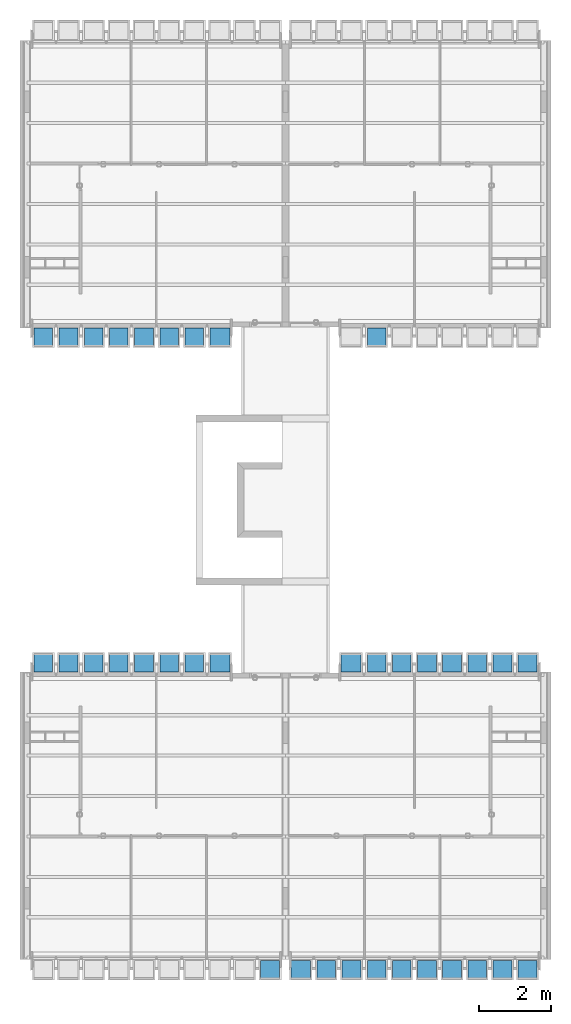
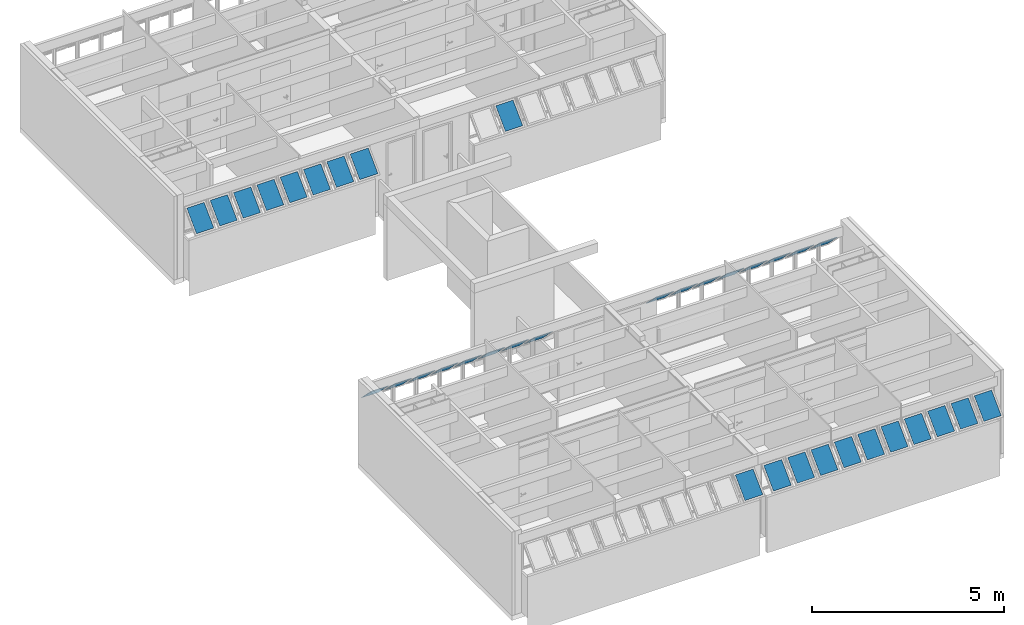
# One storey, part 36 of 37: 36 building element parts, 42 elements without a shape of their own.
"""IFC2X3 building model written with IfcOpenShell, lengths in millimetres."""

from ifc_helpers import new_model, entity, si_unit, converted_unit, derived_unit, money_unit, direction, frame, origin_with_axes, place, context, subcontext, project, spatial, faceted_brep, source, transform, mapped, material, type_object, element, aggregate, save


model = new_model("IFC2X3")

# Units and contexts
model_context = context("Model", 3, precision=0.01, world=origin_with_axes(), true_north=direction((0.0, 1.0)))
body_context = subcontext(model_context, "Body", "Model", "MODEL_VIEW")
ifc_project = project(units=[si_unit("LENGTHUNIT", "METRE", prefix="MILLI"), si_unit("AREAUNIT", "SQUARE_METRE"), si_unit("VOLUMEUNIT", "CUBIC_METRE"), converted_unit("PLANEANGLEUNIT", "DEGREE", entity("IfcPlaneAngleMeasure", 0.0174532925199), si_unit("PLANEANGLEUNIT", "RADIAN"), dimensions=[0, 0, 0, 0, 0, 0, 0]), money_unit("USD"), converted_unit("TIMEUNIT", "Year", entity("IfcTimeMeasure", 31556926.0), si_unit("TIMEUNIT", "SECOND"), dimensions=[0, 0, 1, 0, 0, 0, 0]), si_unit("MASSUNIT", "GRAM", prefix="KILO"), si_unit("THERMODYNAMICTEMPERATUREUNIT", "DEGREE_CELSIUS"), si_unit("LUMINOUSINTENSITYUNIT", "LUMEN"), si_unit("ENERGYUNIT", "JOULE", prefix="MEGA"), derived_unit("THERMALCONDUCTANCEUNIT", [(si_unit("POWERUNIT", "WATT"), 1), (si_unit("LENGTHUNIT", "METRE"), -1), (si_unit("THERMODYNAMICTEMPERATUREUNIT", "KELVIN"), -1)]), derived_unit("SPECIFICHEATCAPACITYUNIT", [(si_unit("ENERGYUNIT", "JOULE"), 1), (si_unit("MASSUNIT", "GRAM", prefix="KILO"), -1), (si_unit("THERMODYNAMICTEMPERATUREUNIT", "KELVIN"), -1)]), derived_unit("MASSDENSITYUNIT", [(si_unit("MASSUNIT", "GRAM", prefix="KILO"), 1), (si_unit("VOLUMEUNIT", "CUBIC_METRE"), -1)])], contexts=[model_context])

# Site, building, storey
site_placement = place(None, origin_with_axes())
site = spatial("IfcSite", under=ifc_project, at=site_placement, Name="Local", CompositionType="ELEMENT")
building_placement = place(site_placement, origin_with_axes())
building = spatial("IfcBuilding", under=site, at=building_placement, Name="Construção", CompositionType="ELEMENT")
storey_placement = place(building_placement, frame((0.0, 0.0, 5300.0), z_axis=(0.0, 0.0, 1.0), x_axis=(1.0, 0.0, 0.0)))
storey = spatial("IfcBuildingStorey", under=building, at=storey_placement, Name="Terceiro Pavimento", CompositionType="ELEMENT", Elevation=5300.0)

# Window, plates, building element parts
window_style = type_object("IfcWindowStyle", Name="Tipo de Parede Cortina", ConstructionType="NOTDEFINED", OperationType="NOTDEFINED", ParameterTakesPrecedence=False, Sizeable=False)
window_1_placement = place(storey_placement, frame((12020.0, 8250.0, 1355.00007107), z_axis=(0.0, 0.0, 1.0), x_axis=(1.0, 0.0, 0.0)))
window_1 = element("IfcWindow", 1, at=window_1_placement, inside=storey, type_object=window_style, Name="APTO10-JANELA-000")
plate_type_1 = type_object("IfcPlateType", Name="Painel Principal 690 x 845 x 20", PredefinedType="CURTAIN_PANEL")
plate_1_placement = place(window_1_placement, frame((0.0, 0.0, 422.499964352), z_axis=(0.0, 0.0, 1.0), x_axis=(1.0, 0.0, 0.0)))
plate_1 = element("IfcPlate", 2, at=plate_1_placement, type_object=plate_type_1, Name="APTO10-Painel-Prin-013")
ifc_material = material(Name="Vidro")
shared_shape_1 = source(origin_with_axes(), body_context, "Body", "Brep", [
    faceted_brep([(90.0000036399, 272.749572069, 537.551834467), (609.999997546, 272.749572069, 537.551834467), (609.999997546, 284.063280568, 548.865542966), (90.0000036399, 284.063280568, 548.865542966), (90.0000036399, 778.330843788, 31.9705627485), (609.999997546, 778.330843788, 31.9705627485), (609.999997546, 789.644552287, 43.2842712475), (90.0000036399, 789.644552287, 43.2842712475)], [[[0, 1, 2, 3]], [[0, 4, 5, 1]], [[1, 5, 6, 2]], [[3, 2, 6, 7]], [[4, 0, 3, 7]], [[5, 4, 7, 6]]]),
])
building_element_part_1_placement = place(plate_1_placement, origin_with_axes())
building_element_part_1 = element("IfcBuildingElementPart", 3, at=building_element_part_1_placement, material=ifc_material, Name="Vidro", context=body_context, shape_type="MappedRepresentation", body=[
    mapped(shared_shape_1, transform((350.0, 0.0, -422.499964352), x_axis=(-1.0, 0.0, 0.0), y_axis=(0.0, 0.0, 1.0), z_axis=(0.0, 1.0, 0.0))),
])
aggregate(plate_1, [building_element_part_1])
plate_2_placement = place(window_1_placement, frame((-2100.0, 0.0, 422.499964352), z_axis=(0.0, 0.0, 1.0), x_axis=(1.0, 0.0, 0.0)))
plate_2 = element("IfcPlate", 4, at=plate_2_placement, type_object=plate_type_1, Name="APTO10-Painel-Prin-029")
building_element_part_2_placement = place(plate_2_placement, origin_with_axes())
building_element_part_2 = element("IfcBuildingElementPart", 5, at=building_element_part_2_placement, material=ifc_material, Name="Vidro", context=body_context, shape_type="MappedRepresentation", body=[
    mapped(shared_shape_1, transform((350.0, 0.0, -422.499964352), x_axis=(-1.0, 0.0, 0.0), y_axis=(0.0, 0.0, 1.0), z_axis=(0.0, 1.0, 0.0))),
])
aggregate(plate_2, [building_element_part_2])

window_2_placement = place(storey_placement, frame((2750.0, 17910.0, 1355.00007107), z_axis=(0.0, 0.0, 1.0), x_axis=(1.0, 0.0, 0.0)))
window_2 = element("IfcWindow", 6, at=window_2_placement, inside=storey, type_object=window_style, Name="APTO11-JANELA-000")
plate_3_placement = place(window_2_placement, frame((0.0, 0.0, 422.499964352), z_axis=(0.0, 0.0, 1.0), x_axis=(-1.0, 0.0, 0.0)))
plate_3 = element("IfcPlate", 7, at=plate_3_placement, type_object=plate_type_1, Name="APTO11-Painel-Prin-013")
building_element_part_3_placement = place(plate_3_placement, origin_with_axes())
building_element_part_3 = element("IfcBuildingElementPart", 8, at=building_element_part_3_placement, material=ifc_material, Name="Vidro", context=body_context, shape_type="MappedRepresentation", body=[
    mapped(shared_shape_1, transform((350.0, 0.0, -422.499964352), x_axis=(-1.0, 0.0, 0.0), y_axis=(0.0, 0.0, 1.0), z_axis=(0.0, 1.0, 0.0))),
])
aggregate(plate_3, [building_element_part_3])
plate_4_placement = place(window_2_placement, frame((2100.0, 0.0, 422.499964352), z_axis=(0.0, 0.0, 1.0), x_axis=(-1.0, 0.0, 0.0)))
plate_4 = element("IfcPlate", 9, at=plate_4_placement, type_object=plate_type_1, Name="APTO11-Painel-Prin-029")
building_element_part_4_placement = place(plate_4_placement, origin_with_axes())
building_element_part_4 = element("IfcBuildingElementPart", 10, at=building_element_part_4_placement, material=ifc_material, Name="Vidro", context=body_context, shape_type="MappedRepresentation", body=[
    mapped(shared_shape_1, transform((350.0, 0.0, -422.499964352), x_axis=(-1.0, 0.0, 0.0), y_axis=(0.0, 0.0, 1.0), z_axis=(0.0, 1.0, 0.0))),
])
aggregate(plate_4, [building_element_part_4])

# Window, plate, building element part
window_3_placement = place(storey_placement, frame((6250.0, 315.020977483, 1355.02054151), z_axis=(0.0, 0.0, 1.0), x_axis=(1.0, 0.0, 0.0)))
window_3 = element("IfcWindow", 11, at=window_3_placement, inside=storey, type_object=window_style, Name="APTO9-JANELA-001")
plate_type_2 = type_object("IfcPlateType", Name="Painel Principal 685 x 845 x 20", PredefinedType="CURTAIN_PANEL")
plate_5_placement = place(window_3_placement, frame((695.000037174, 0.0, 422.499953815), z_axis=(0.0, 0.0, 1.0), x_axis=(-1.0, 0.0, 0.0)))
plate_5 = element("IfcPlate", 12, at=plate_5_placement, type_object=plate_type_2, Name="APTO9-Painel-Prin-031")
aggregate(window_3, [plate_5])
shared_shape_2 = source(origin_with_axes(), body_context, "Body", "Brep", [
    faceted_brep([(90.0000046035, 272.749581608, 537.551857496), (625.000079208, 272.749581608, 537.551857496), (625.000079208, 284.063290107, 548.865565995), (90.0000046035, 284.063290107, 548.865565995), (90.0000046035, 778.330876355, 31.9705627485), (625.000079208, 778.330876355, 31.9705627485), (625.000079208, 789.644584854, 43.2842712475), (90.0000046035, 789.644584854, 43.2842712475)], [[[0, 1, 2, 3]], [[0, 4, 5, 1]], [[1, 5, 6, 2]], [[3, 2, 6, 7]], [[4, 0, 3, 7]], [[5, 4, 7, 6]]]),
])
building_element_part_5_placement = place(plate_5_placement, origin_with_axes())
building_element_part_5 = element("IfcBuildingElementPart", 13, at=building_element_part_5_placement, material=ifc_material, Name="Vidro", context=body_context, shape_type="MappedRepresentation", body=[
    mapped(shared_shape_2, transform((345.000037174, 0.0, -422.499953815), x_axis=(-1.0, 0.0, 0.0), y_axis=(0.0, 0.0, 1.0), z_axis=(0.0, 1.0, 0.0))),
])
aggregate(plate_5, [building_element_part_5])

# Plate, building element part
plate_6_placement = place(window_1_placement, frame((2100.0, 0.0, 422.499998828), z_axis=(0.0, 0.0, 1.0), x_axis=(1.0, 0.0, 0.0)))
plate_6 = element("IfcPlate", 14, at=plate_6_placement, type_object=plate_type_1, Name="APTO10-Painel-Prin-013")
shared_shape_3 = source(origin_with_axes(), body_context, "Body", "Brep", [
    faceted_brep([(90.0000036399, 272.749572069, 537.551834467), (609.999997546, 272.749572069, 537.551834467), (609.999997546, 284.063280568, 548.865542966), (90.0000036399, 284.063280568, 548.865542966), (90.0000036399, 778.330843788, 31.9705627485), (609.999997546, 778.330843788, 31.9705627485), (609.999997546, 789.644552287, 43.2842712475), (90.0000036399, 789.644552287, 43.2842712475)], [[[0, 1, 2, 3]], [[0, 4, 5, 1]], [[1, 5, 6, 2]], [[3, 2, 6, 7]], [[4, 0, 3, 7]], [[5, 4, 7, 6]]]),
])
building_element_part_6_placement = place(plate_6_placement, origin_with_axes())
building_element_part_6 = element("IfcBuildingElementPart", 15, at=building_element_part_6_placement, material=ifc_material, Name="Vidro", context=body_context, shape_type="MappedRepresentation", body=[
    mapped(shared_shape_3, transform((350.0, 0.0, -422.499998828), x_axis=(-1.0, 0.0, 0.0), y_axis=(0.0, 0.0, 1.0), z_axis=(0.0, 1.0, 0.0))),
])
aggregate(plate_6, [building_element_part_6])

plate_7_placement = place(window_1_placement, frame((1400.0, 0.0, 422.499964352), z_axis=(0.0, 0.0, 1.0), x_axis=(1.0, 0.0, 0.0)))
plate_7 = element("IfcPlate", 16, at=plate_7_placement, type_object=plate_type_1, Name="APTO10-Painel-Prin-013")
building_element_part_7_placement = place(plate_7_placement, origin_with_axes())
building_element_part_7 = element("IfcBuildingElementPart", 17, at=building_element_part_7_placement, material=ifc_material, Name="Vidro", context=body_context, shape_type="MappedRepresentation", body=[
    mapped(shared_shape_3, transform((350.0, 0.0, -422.499964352), x_axis=(-1.0, 0.0, 0.0), y_axis=(0.0, 0.0, 1.0), z_axis=(0.0, 1.0, 0.0))),
])
aggregate(plate_7, [building_element_part_7])

plate_8_placement = place(window_1_placement, frame((-1400.0, 0.0, 422.499964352), z_axis=(0.0, 0.0, 1.0), x_axis=(1.0, 0.0, 0.0)))
plate_8 = element("IfcPlate", 18, at=plate_8_placement, type_object=plate_type_1, Name="APTO10-Painel-Prin-025")
building_element_part_8_placement = place(plate_8_placement, origin_with_axes())
building_element_part_8 = element("IfcBuildingElementPart", 19, at=building_element_part_8_placement, material=ifc_material, Name="Vidro", context=body_context, shape_type="MappedRepresentation", body=[
    mapped(shared_shape_3, transform((350.0, 0.0, -422.499964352), x_axis=(-1.0, 0.0, 0.0), y_axis=(0.0, 0.0, 1.0), z_axis=(0.0, 1.0, 0.0))),
])
aggregate(plate_8, [building_element_part_8])

plate_9_placement = place(window_2_placement, frame((-2100.0, 0.0, 422.499998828), z_axis=(0.0, 0.0, 1.0), x_axis=(-1.0, 0.0, 0.0)))
plate_9 = element("IfcPlate", 20, at=plate_9_placement, type_object=plate_type_1, Name="APTO11-Painel-Prin-013")
building_element_part_9_placement = place(plate_9_placement, origin_with_axes())
building_element_part_9 = element("IfcBuildingElementPart", 21, at=building_element_part_9_placement, material=ifc_material, Name="Vidro", context=body_context, shape_type="MappedRepresentation", body=[
    mapped(shared_shape_3, transform((350.0, 0.0, -422.499998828), x_axis=(-1.0, 0.0, 0.0), y_axis=(0.0, 0.0, 1.0), z_axis=(0.0, 1.0, 0.0))),
])
aggregate(plate_9, [building_element_part_9])

plate_10_placement = place(window_2_placement, frame((-1400.0, 0.0, 422.499964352), z_axis=(0.0, 0.0, 1.0), x_axis=(-1.0, 0.0, 0.0)))
plate_10 = element("IfcPlate", 22, at=plate_10_placement, type_object=plate_type_1, Name="APTO11-Painel-Prin-013")
building_element_part_10_placement = place(plate_10_placement, origin_with_axes())
building_element_part_10 = element("IfcBuildingElementPart", 23, at=building_element_part_10_placement, material=ifc_material, Name="Vidro", context=body_context, shape_type="MappedRepresentation", body=[
    mapped(shared_shape_3, transform((350.0, 0.0, -422.499964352), x_axis=(-1.0, 0.0, 0.0), y_axis=(0.0, 0.0, 1.0), z_axis=(0.0, 1.0, 0.0))),
])
aggregate(plate_10, [building_element_part_10])

plate_11_placement = place(window_2_placement, frame((1400.0, 0.0, 422.499964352), z_axis=(0.0, 0.0, 1.0), x_axis=(-1.0, 0.0, 0.0)))
plate_11 = element("IfcPlate", 24, at=plate_11_placement, type_object=plate_type_1, Name="APTO11-Painel-Prin-025")
building_element_part_11_placement = place(plate_11_placement, origin_with_axes())
building_element_part_11 = element("IfcBuildingElementPart", 25, at=building_element_part_11_placement, material=ifc_material, Name="Vidro", context=body_context, shape_type="MappedRepresentation", body=[
    mapped(shared_shape_3, transform((350.0, 0.0, -422.499964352), x_axis=(-1.0, 0.0, 0.0), y_axis=(0.0, 0.0, 1.0), z_axis=(0.0, 1.0, 0.0))),
])
aggregate(plate_11, [building_element_part_11])

plate_12_placement = place(window_1_placement, frame((-700.0, 0.0, 422.499964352), z_axis=(0.0, 0.0, 1.0), x_axis=(1.0, 0.0, 0.0)))
plate_12 = element("IfcPlate", 26, at=plate_12_placement, type_object=plate_type_1, Name="APTO10-Painel-Prin-013")
shared_shape_4 = source(origin_with_axes(), body_context, "Body", "Brep", [
    faceted_brep([(90.0000036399, 272.749572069, 537.551834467), (609.999997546, 272.749572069, 537.551834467), (609.999997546, 284.063280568, 548.865542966), (90.0000036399, 284.063280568, 548.865542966), (90.0000036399, 778.330843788, 31.9705627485), (609.999997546, 778.330843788, 31.9705627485), (609.999997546, 789.644552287, 43.2842712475), (90.0000036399, 789.644552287, 43.2842712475)], [[[0, 1, 2, 3]], [[0, 4, 5, 1]], [[1, 5, 6, 2]], [[3, 2, 6, 7]], [[4, 0, 3, 7]], [[5, 4, 7, 6]]]),
])
building_element_part_12_placement = place(plate_12_placement, origin_with_axes())
building_element_part_12 = element("IfcBuildingElementPart", 27, at=building_element_part_12_placement, material=ifc_material, Name="Vidro", context=body_context, shape_type="MappedRepresentation", body=[
    mapped(shared_shape_4, transform((350.0, 0.0, -422.499964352), x_axis=(-1.0, 0.0, 0.0), y_axis=(0.0, 0.0, 1.0), z_axis=(0.0, 1.0, 0.0))),
])
aggregate(plate_12, [building_element_part_12])

plate_13_placement = place(window_1_placement, frame((700.0, 0.0, 422.499964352), z_axis=(0.0, 0.0, 1.0), x_axis=(1.0, 0.0, 0.0)))
plate_13 = element("IfcPlate", 28, at=plate_13_placement, type_object=plate_type_1, Name="APTO10-Painel-Prin-013")
building_element_part_13_placement = place(plate_13_placement, origin_with_axes())
building_element_part_13 = element("IfcBuildingElementPart", 29, at=building_element_part_13_placement, material=ifc_material, Name="Vidro", context=body_context, shape_type="MappedRepresentation", body=[
    mapped(shared_shape_4, transform((350.0, 0.0, -422.499964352), x_axis=(-1.0, 0.0, 0.0), y_axis=(0.0, 0.0, 1.0), z_axis=(0.0, 1.0, 0.0))),
])
aggregate(plate_13, [building_element_part_13])

plate_14_placement = place(window_2_placement, frame((700.0, 0.0, 422.499964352), z_axis=(0.0, 0.0, 1.0), x_axis=(-1.0, 0.0, 0.0)))
plate_14 = element("IfcPlate", 30, at=plate_14_placement, type_object=plate_type_1, Name="APTO11-Painel-Prin-013")
building_element_part_14_placement = place(plate_14_placement, origin_with_axes())
building_element_part_14 = element("IfcBuildingElementPart", 31, at=building_element_part_14_placement, material=ifc_material, Name="Vidro", context=body_context, shape_type="MappedRepresentation", body=[
    mapped(shared_shape_4, transform((350.0, 0.0, -422.499964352), x_axis=(-1.0, 0.0, 0.0), y_axis=(0.0, 0.0, 1.0), z_axis=(0.0, 1.0, 0.0))),
])
aggregate(plate_14, [building_element_part_14])

plate_15_placement = place(window_2_placement, frame((-700.0, 0.0, 422.499964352), z_axis=(0.0, 0.0, 1.0), x_axis=(-1.0, 0.0, 0.0)))
plate_15 = element("IfcPlate", 32, at=plate_15_placement, type_object=plate_type_1, Name="APTO11-Painel-Prin-013")
building_element_part_15_placement = place(plate_15_placement, origin_with_axes())
building_element_part_15 = element("IfcBuildingElementPart", 33, at=building_element_part_15_placement, material=ifc_material, Name="Vidro", context=body_context, shape_type="MappedRepresentation", body=[
    mapped(shared_shape_4, transform((350.0, 0.0, -422.499964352), x_axis=(-1.0, 0.0, 0.0), y_axis=(0.0, 0.0, 1.0), z_axis=(0.0, 1.0, 0.0))),
])
aggregate(plate_15, [building_element_part_15])

# Window, plates, building element parts
window_4_placement = place(storey_placement, frame((2750.0, 8250.0, 1355.00007107), z_axis=(0.0, 0.0, 1.0), x_axis=(1.0, 0.0, 0.0)))
window_4 = element("IfcWindow", 34, at=window_4_placement, inside=storey, type_object=window_style, Name="APTO9-JANELA-000")
plate_16_placement = place(window_4_placement, frame((0.0, 0.0, 422.499964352), z_axis=(0.0, 0.0, 1.0), x_axis=(-1.0, 0.0, 0.0)))
plate_16 = element("IfcPlate", 35, at=plate_16_placement, type_object=plate_type_1, Name="APTO9-Painel-Prin-013")
shared_shape_5 = source(origin_with_axes(), body_context, "Body", "Brep", [
    faceted_brep([(-90.0000036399, 272.749572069, 537.551834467), (-90.0000036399, 284.063280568, 548.865542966), (-609.999997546, 284.063280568, 548.865542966), (-609.999997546, 272.749572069, 537.551834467), (-90.0000036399, 778.330843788, 31.9705627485), (-90.0000036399, 789.644552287, 43.2842712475), (-609.999997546, 789.644552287, 43.2842712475), (-609.999997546, 778.330843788, 31.9705627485)], [[[0, 1, 2, 3]], [[4, 5, 1, 0]], [[1, 5, 6, 2]], [[3, 2, 6, 7]], [[0, 3, 7, 4]], [[7, 6, 5, 4]]]),
])
building_element_part_16_placement = place(plate_16_placement, origin_with_axes())
building_element_part_16 = element("IfcBuildingElementPart", 36, at=building_element_part_16_placement, material=ifc_material, Name="Vidro", context=body_context, shape_type="MappedRepresentation", body=[
    mapped(shared_shape_5, transform((350.0, 0.0, -422.499964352), x_axis=(1.0, 0.0, 0.0), y_axis=(0.0, 0.0, 1.0), z_axis=(0.0, -1.0, 0.0))),
])
aggregate(plate_16, [building_element_part_16])
plate_17_placement = place(window_4_placement, frame((2100.0, 0.0, 422.499964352), z_axis=(0.0, 0.0, 1.0), x_axis=(-1.0, 0.0, 0.0)))
plate_17 = element("IfcPlate", 37, at=plate_17_placement, type_object=plate_type_1, Name="APTO9-Painel-Prin-029")
building_element_part_17_placement = place(plate_17_placement, origin_with_axes())
building_element_part_17 = element("IfcBuildingElementPart", 38, at=building_element_part_17_placement, material=ifc_material, Name="Vidro", context=body_context, shape_type="MappedRepresentation", body=[
    mapped(shared_shape_5, transform((350.0, 0.0, -422.499964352), x_axis=(1.0, 0.0, 0.0), y_axis=(0.0, 0.0, 1.0), z_axis=(0.0, -1.0, 0.0))),
])
aggregate(plate_17, [building_element_part_17])

window_5_placement = place(storey_placement, frame((8520.0, 315.020977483, 1355.02054151), z_axis=(0.0, 0.0, 1.0), x_axis=(1.0, 0.0, 0.0)))
window_5 = element("IfcWindow", 39, at=window_5_placement, inside=storey, type_object=window_style, Name="APTO10-JANELA-001")
plate_18_placement = place(window_5_placement, frame((0.0, 0.0, 422.499945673), z_axis=(0.0, 0.0, 1.0), x_axis=(1.0, 0.0, 0.0)))
plate_18 = element("IfcPlate", 40, at=plate_18_placement, type_object=plate_type_1, Name="APTO10-Painel-Prin-030")
building_element_part_18_placement = place(plate_18_placement, origin_with_axes())
building_element_part_18 = element("IfcBuildingElementPart", 41, at=building_element_part_18_placement, material=ifc_material, Name="Vidro", context=body_context, shape_type="MappedRepresentation", body=[
    mapped(shared_shape_5, transform((350.0, 0.0, -422.499945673), x_axis=(1.0, 0.0, 0.0), y_axis=(0.0, 0.0, 1.0), z_axis=(0.0, -1.0, 0.0))),
])
aggregate(plate_18, [building_element_part_18])
plate_19_placement = place(window_5_placement, frame((700.0, 0.0, 422.499945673), z_axis=(0.0, 0.0, 1.0), x_axis=(1.0, 0.0, 0.0)))
plate_19 = element("IfcPlate", 42, at=plate_19_placement, type_object=plate_type_1, Name="APTO10-Painel-Prin-020")
building_element_part_19_placement = place(plate_19_placement, origin_with_axes())
building_element_part_19 = element("IfcBuildingElementPart", 43, at=building_element_part_19_placement, material=ifc_material, Name="Vidro", context=body_context, shape_type="MappedRepresentation", body=[
    mapped(shared_shape_5, transform((350.0, 0.0, -422.499945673), x_axis=(1.0, 0.0, 0.0), y_axis=(0.0, 0.0, 1.0), z_axis=(0.0, -1.0, 0.0))),
])
aggregate(plate_19, [building_element_part_19])
plate_20_placement = place(window_5_placement, frame((1400.0, 0.0, 422.499945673), z_axis=(0.0, 0.0, 1.0), x_axis=(1.0, 0.0, 0.0)))
plate_20 = element("IfcPlate", 44, at=plate_20_placement, type_object=plate_type_1, Name="APTO10-Painel-Prin-029")
building_element_part_20_placement = place(plate_20_placement, origin_with_axes())
building_element_part_20 = element("IfcBuildingElementPart", 45, at=building_element_part_20_placement, material=ifc_material, Name="Vidro", context=body_context, shape_type="MappedRepresentation", body=[
    mapped(shared_shape_5, transform((350.0, 0.0, -422.499945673), x_axis=(1.0, 0.0, 0.0), y_axis=(0.0, 0.0, 1.0), z_axis=(0.0, -1.0, 0.0))),
])
aggregate(plate_20, [building_element_part_20])
plate_21_placement = place(window_5_placement, frame((3500.0, 0.0, 422.499945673), z_axis=(0.0, 0.0, 1.0), x_axis=(1.0, 0.0, 0.0)))
plate_21 = element("IfcPlate", 46, at=plate_21_placement, type_object=plate_type_1, Name="APTO10-Painel-Prin-013")
building_element_part_21_placement = place(plate_21_placement, origin_with_axes())
building_element_part_21 = element("IfcBuildingElementPart", 47, at=building_element_part_21_placement, material=ifc_material, Name="Vidro", context=body_context, shape_type="MappedRepresentation", body=[
    mapped(shared_shape_5, transform((350.0, 0.0, -422.499945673), x_axis=(1.0, 0.0, 0.0), y_axis=(0.0, 0.0, 1.0), z_axis=(0.0, -1.0, 0.0))),
])
aggregate(plate_21, [building_element_part_21])

# Window, plate, building element part
window_6_placement = place(storey_placement, frame((12020.0, 17910.0, 1355.00007107), z_axis=(0.0, 0.0, 1.0), x_axis=(1.0, 0.0, 0.0)))
window_6 = element("IfcWindow", 48, at=window_6_placement, inside=storey, type_object=window_style, Name="APTO12-JANELA-000")
plate_22_placement = place(window_6_placement, frame((-2100.0, 0.0, 422.499964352), z_axis=(0.0, 0.0, 1.0), x_axis=(1.0, 0.0, 0.0)))
plate_22 = element("IfcPlate", 49, at=plate_22_placement, type_object=plate_type_1, Name="APTO12-Painel-Prin-029")
aggregate(window_6, [plate_22])
building_element_part_22_placement = place(plate_22_placement, origin_with_axes())
building_element_part_22 = element("IfcBuildingElementPart", 50, at=building_element_part_22_placement, material=ifc_material, Name="Vidro", context=body_context, shape_type="MappedRepresentation", body=[
    mapped(shared_shape_5, transform((350.0, 0.0, -422.499964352), x_axis=(1.0, 0.0, 0.0), y_axis=(0.0, 0.0, 1.0), z_axis=(0.0, -1.0, 0.0))),
])
aggregate(plate_22, [building_element_part_22])

# Plate, building element part
plate_23_placement = place(window_4_placement, frame((-2100.0, 0.0, 422.499998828), z_axis=(0.0, 0.0, 1.0), x_axis=(-1.0, 0.0, 0.0)))
plate_23 = element("IfcPlate", 51, at=plate_23_placement, type_object=plate_type_1, Name="APTO9-Painel-Prin-013")
shared_shape_6 = source(origin_with_axes(), body_context, "Body", "Brep", [
    faceted_brep([(-90.0000036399, 272.749572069, 537.551834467), (-90.0000036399, 284.063280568, 548.865542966), (-609.999997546, 284.063280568, 548.865542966), (-609.999997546, 272.749572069, 537.551834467), (-90.0000036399, 778.330843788, 31.9705627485), (-90.0000036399, 789.644552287, 43.2842712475), (-609.999997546, 789.644552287, 43.2842712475), (-609.999997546, 778.330843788, 31.9705627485)], [[[0, 1, 2, 3]], [[4, 5, 1, 0]], [[1, 5, 6, 2]], [[3, 2, 6, 7]], [[0, 3, 7, 4]], [[7, 6, 5, 4]]]),
])
building_element_part_23_placement = place(plate_23_placement, origin_with_axes())
building_element_part_23 = element("IfcBuildingElementPart", 52, at=building_element_part_23_placement, material=ifc_material, Name="Vidro", context=body_context, shape_type="MappedRepresentation", body=[
    mapped(shared_shape_6, transform((350.0, 0.0, -422.499998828), x_axis=(1.0, 0.0, 0.0), y_axis=(0.0, 0.0, 1.0), z_axis=(0.0, -1.0, 0.0))),
])
aggregate(plate_23, [building_element_part_23])

plate_24_placement = place(window_4_placement, frame((-1400.0, 0.0, 422.499964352), z_axis=(0.0, 0.0, 1.0), x_axis=(-1.0, 0.0, 0.0)))
plate_24 = element("IfcPlate", 53, at=plate_24_placement, type_object=plate_type_1, Name="APTO9-Painel-Prin-013")
building_element_part_24_placement = place(plate_24_placement, origin_with_axes())
building_element_part_24 = element("IfcBuildingElementPart", 54, at=building_element_part_24_placement, material=ifc_material, Name="Vidro", context=body_context, shape_type="MappedRepresentation", body=[
    mapped(shared_shape_6, transform((350.0, 0.0, -422.499964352), x_axis=(1.0, 0.0, 0.0), y_axis=(0.0, 0.0, 1.0), z_axis=(0.0, -1.0, 0.0))),
])
aggregate(plate_24, [building_element_part_24])

plate_25_placement = place(window_4_placement, frame((1400.0, 0.0, 422.499964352), z_axis=(0.0, 0.0, 1.0), x_axis=(-1.0, 0.0, 0.0)))
plate_25 = element("IfcPlate", 55, at=plate_25_placement, type_object=plate_type_1, Name="APTO9-Painel-Prin-025")
building_element_part_25_placement = place(plate_25_placement, origin_with_axes())
building_element_part_25 = element("IfcBuildingElementPart", 56, at=building_element_part_25_placement, material=ifc_material, Name="Vidro", context=body_context, shape_type="MappedRepresentation", body=[
    mapped(shared_shape_6, transform((350.0, 0.0, -422.499964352), x_axis=(1.0, 0.0, 0.0), y_axis=(0.0, 0.0, 1.0), z_axis=(0.0, -1.0, 0.0))),
])
aggregate(plate_25, [building_element_part_25])

plate_26_placement = place(window_5_placement, frame((5600.0, 0.0, 422.499945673), z_axis=(0.0, 0.0, 1.0), x_axis=(1.0, 0.0, 0.0)))
plate_26 = element("IfcPlate", 57, at=plate_26_placement, type_object=plate_type_1, Name="APTO10-Painel-Prin-013")
building_element_part_26_placement = place(plate_26_placement, origin_with_axes())
building_element_part_26 = element("IfcBuildingElementPart", 58, at=building_element_part_26_placement, material=ifc_material, Name="Vidro", context=body_context, shape_type="MappedRepresentation", body=[
    mapped(shared_shape_6, transform((350.0, 0.0, -422.499945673), x_axis=(1.0, 0.0, 0.0), y_axis=(0.0, 0.0, 1.0), z_axis=(0.0, -1.0, 0.0))),
])
aggregate(plate_26, [building_element_part_26])

plate_27_placement = place(window_5_placement, frame((4900.0, 0.0, 422.499945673), z_axis=(0.0, 0.0, 1.0), x_axis=(1.0, 0.0, 0.0)))
plate_27 = element("IfcPlate", 59, at=plate_27_placement, type_object=plate_type_1, Name="APTO10-Painel-Prin-013")
building_element_part_27_placement = place(plate_27_placement, origin_with_axes())
building_element_part_27 = element("IfcBuildingElementPart", 60, at=building_element_part_27_placement, material=ifc_material, Name="Vidro", context=body_context, shape_type="MappedRepresentation", body=[
    mapped(shared_shape_6, transform((350.0, 0.0, -422.499945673), x_axis=(1.0, 0.0, 0.0), y_axis=(0.0, 0.0, 1.0), z_axis=(0.0, -1.0, 0.0))),
])
aggregate(plate_27, [building_element_part_27])

plate_28_placement = place(window_5_placement, frame((2100.0, 0.0, 422.499945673), z_axis=(0.0, 0.0, 1.0), x_axis=(1.0, 0.0, 0.0)))
plate_28 = element("IfcPlate", 61, at=plate_28_placement, type_object=plate_type_1, Name="APTO10-Painel-Prin-025")
building_element_part_28_placement = place(plate_28_placement, origin_with_axes())
building_element_part_28 = element("IfcBuildingElementPart", 62, at=building_element_part_28_placement, material=ifc_material, Name="Vidro", context=body_context, shape_type="MappedRepresentation", body=[
    mapped(shared_shape_6, transform((350.0, 0.0, -422.499945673), x_axis=(1.0, 0.0, 0.0), y_axis=(0.0, 0.0, 1.0), z_axis=(0.0, -1.0, 0.0))),
])
aggregate(plate_28, [building_element_part_28])

plate_29_placement = place(window_4_placement, frame((700.0, 0.0, 422.499964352), z_axis=(0.0, 0.0, 1.0), x_axis=(-1.0, 0.0, 0.0)))
plate_29 = element("IfcPlate", 63, at=plate_29_placement, type_object=plate_type_1, Name="APTO9-Painel-Prin-013")
shared_shape_7 = source(origin_with_axes(), body_context, "Body", "Brep", [
    faceted_brep([(-90.0000036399, 272.749572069, 537.551834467), (-90.0000036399, 284.063280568, 548.865542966), (-609.999997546, 284.063280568, 548.865542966), (-609.999997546, 272.749572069, 537.551834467), (-90.0000036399, 778.330843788, 31.9705627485), (-90.0000036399, 789.644552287, 43.2842712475), (-609.999997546, 789.644552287, 43.2842712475), (-609.999997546, 778.330843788, 31.9705627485)], [[[0, 1, 2, 3]], [[4, 5, 1, 0]], [[1, 5, 6, 2]], [[3, 2, 6, 7]], [[0, 3, 7, 4]], [[7, 6, 5, 4]]]),
])
building_element_part_29_placement = place(plate_29_placement, origin_with_axes())
building_element_part_29 = element("IfcBuildingElementPart", 64, at=building_element_part_29_placement, material=ifc_material, Name="Vidro", context=body_context, shape_type="MappedRepresentation", body=[
    mapped(shared_shape_7, transform((350.0, 0.0, -422.499964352), x_axis=(1.0, 0.0, 0.0), y_axis=(0.0, 0.0, 1.0), z_axis=(0.0, -1.0, 0.0))),
])
aggregate(plate_29, [building_element_part_29])

plate_30_placement = place(window_4_placement, frame((-700.0, 0.0, 422.499964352), z_axis=(0.0, 0.0, 1.0), x_axis=(-1.0, 0.0, 0.0)))
plate_30 = element("IfcPlate", 65, at=plate_30_placement, type_object=plate_type_1, Name="APTO9-Painel-Prin-013")
building_element_part_30_placement = place(plate_30_placement, origin_with_axes())
building_element_part_30 = element("IfcBuildingElementPart", 66, at=building_element_part_30_placement, material=ifc_material, Name="Vidro", context=body_context, shape_type="MappedRepresentation", body=[
    mapped(shared_shape_7, transform((350.0, 0.0, -422.499964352), x_axis=(1.0, 0.0, 0.0), y_axis=(0.0, 0.0, 1.0), z_axis=(0.0, -1.0, 0.0))),
])
aggregate(plate_30, [building_element_part_30])

plate_31_placement = place(window_5_placement, frame((2800.0, 0.0, 422.499945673), z_axis=(0.0, 0.0, 1.0), x_axis=(1.0, 0.0, 0.0)))
plate_31 = element("IfcPlate", 67, at=plate_31_placement, type_object=plate_type_1, Name="APTO10-Painel-Prin-013")
building_element_part_31_placement = place(plate_31_placement, origin_with_axes())
building_element_part_31 = element("IfcBuildingElementPart", 68, at=building_element_part_31_placement, material=ifc_material, Name="Vidro", context=body_context, shape_type="MappedRepresentation", body=[
    mapped(shared_shape_7, transform((350.0, 0.0, -422.499945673), x_axis=(1.0, 0.0, 0.0), y_axis=(0.0, 0.0, 1.0), z_axis=(0.0, -1.0, 0.0))),
])
aggregate(plate_31, [building_element_part_31])

plate_32_placement = place(window_5_placement, frame((4200.0, 0.0, 422.499945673), z_axis=(0.0, 0.0, 1.0), x_axis=(1.0, 0.0, 0.0)))
plate_32 = element("IfcPlate", 69, at=plate_32_placement, type_object=plate_type_1, Name="APTO10-Painel-Prin-013")
building_element_part_32_placement = place(plate_32_placement, origin_with_axes())
building_element_part_32 = element("IfcBuildingElementPart", 70, at=building_element_part_32_placement, material=ifc_material, Name="Vidro", context=body_context, shape_type="MappedRepresentation", body=[
    mapped(shared_shape_7, transform((350.0, 0.0, -422.499945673), x_axis=(1.0, 0.0, 0.0), y_axis=(0.0, 0.0, 1.0), z_axis=(0.0, -1.0, 0.0))),
])
aggregate(plate_32, [building_element_part_32])

# Plate
plate_type_3 = type_object("IfcPlateType", Name="Painel Principal 695 x 845 x 20", PredefinedType="CURTAIN_PANEL")
plate_33_placement = place(window_4_placement, frame((2800.0, 0.0, 422.499986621), z_axis=(0.0, 0.0, 1.0), x_axis=(-1.0, 0.0, 0.0)))
plate_33 = element("IfcPlate", 71, at=plate_33_placement, type_object=plate_type_3, Name="APTO9-Painel-Prin-020")

aggregate(window_4, [plate_16, plate_17, plate_23, plate_24, plate_29, plate_25, plate_33, plate_30])

# Building element part
shared_shape_8 = source(origin_with_axes(), body_context, "Body", "Brep", [
    faceted_brep([(-90.0000062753, 272.749598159, 537.551897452), (-90.0000062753, 284.063306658, 548.865605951), (-634.999999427, 284.063306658, 548.865605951), (-634.999999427, 272.749598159, 537.551897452), (-90.0000062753, 778.330932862, 31.9705627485), (-90.0000062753, 789.644641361, 43.2842712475), (-634.999999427, 789.644641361, 43.2842712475), (-634.999999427, 778.330932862, 31.9705627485)], [[[0, 1, 2, 3]], [[4, 5, 1, 0]], [[1, 5, 6, 2]], [[3, 2, 6, 7]], [[0, 3, 7, 4]], [[7, 6, 5, 4]]]),
])
building_element_part_33_placement = place(plate_33_placement, origin_with_axes())
building_element_part_33 = element("IfcBuildingElementPart", 72, at=building_element_part_33_placement, material=ifc_material, Name="Vidro", context=body_context, shape_type="MappedRepresentation", body=[
    mapped(shared_shape_8, transform((350.0, 0.0, -422.499986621), x_axis=(1.0, 0.0, 0.0), y_axis=(0.0, 0.0, 1.0), z_axis=(0.0, -1.0, 0.0))),
])

aggregate(plate_33, [building_element_part_33])

# Plate
plate_34_placement = place(window_5_placement, frame((-695.000037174, 0.0, 422.499953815), z_axis=(0.0, 0.0, 1.0), x_axis=(1.0, 0.0, 0.0)))
plate_34 = element("IfcPlate", 73, at=plate_34_placement, type_object=plate_type_2, Name="APTO10-Painel-Prin-031")

aggregate(window_5, [plate_18, plate_34, plate_26, plate_27, plate_31, plate_28, plate_19, plate_32, plate_20, plate_21])

# Building element part
shared_shape_9 = source(origin_with_axes(), body_context, "Body", "Brep", [
    faceted_brep([(-90.0000046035, 272.749581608, 537.551857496), (-90.0000046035, 284.063290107, 548.865565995), (-625.000079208, 284.063290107, 548.865565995), (-625.000079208, 272.749581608, 537.551857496), (-90.0000046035, 778.330876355, 31.9705627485), (-90.0000046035, 789.644584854, 43.2842712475), (-625.000079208, 789.644584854, 43.2842712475), (-625.000079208, 778.330876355, 31.9705627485)], [[[0, 1, 2, 3]], [[4, 5, 1, 0]], [[1, 5, 6, 2]], [[3, 2, 6, 7]], [[0, 3, 7, 4]], [[7, 6, 5, 4]]]),
])
building_element_part_34_placement = place(plate_34_placement, origin_with_axes())
building_element_part_34 = element("IfcBuildingElementPart", 74, at=building_element_part_34_placement, material=ifc_material, Name="Vidro", context=body_context, shape_type="MappedRepresentation", body=[
    mapped(shared_shape_9, transform((345.000037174, 0.0, -422.499953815), x_axis=(1.0, 0.0, 0.0), y_axis=(0.0, 0.0, 1.0), z_axis=(0.0, -1.0, 0.0))),
])

aggregate(plate_34, [building_element_part_34])

# Plate
plate_35_placement = place(window_1_placement, frame((-2800.0, 0.0, 422.499986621), z_axis=(0.0, 0.0, 1.0), x_axis=(1.0, 0.0, 0.0)))
plate_35 = element("IfcPlate", 75, at=plate_35_placement, type_object=plate_type_3, Name="APTO10-Painel-Prin-020")

aggregate(window_1, [plate_1, plate_2, plate_6, plate_7, plate_12, plate_8, plate_35, plate_13])

# Building element part
shared_shape_10 = source(origin_with_axes(), body_context, "Body", "Brep", [
    faceted_brep([(90.0000062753, 272.749598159, 537.551897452), (634.999999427, 272.749598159, 537.551897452), (634.999999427, 284.063306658, 548.865605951), (90.0000062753, 284.063306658, 548.865605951), (90.0000062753, 778.330932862, 31.9705627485), (634.999999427, 778.330932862, 31.9705627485), (634.999999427, 789.644641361, 43.2842712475), (90.0000062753, 789.644641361, 43.2842712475)], [[[0, 1, 2, 3]], [[0, 4, 5, 1]], [[1, 5, 6, 2]], [[3, 2, 6, 7]], [[4, 0, 3, 7]], [[5, 4, 7, 6]]]),
])
building_element_part_35_placement = place(plate_35_placement, origin_with_axes())
building_element_part_35 = element("IfcBuildingElementPart", 76, at=building_element_part_35_placement, material=ifc_material, Name="Vidro", context=body_context, shape_type="MappedRepresentation", body=[
    mapped(shared_shape_10, transform((350.0, 0.0, -422.499986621), x_axis=(-1.0, 0.0, 0.0), y_axis=(0.0, 0.0, 1.0), z_axis=(0.0, 1.0, 0.0))),
])

aggregate(plate_35, [building_element_part_35])

# Plate
plate_36_placement = place(window_2_placement, frame((2800.0, 0.0, 422.499986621), z_axis=(0.0, 0.0, 1.0), x_axis=(-1.0, 0.0, 0.0)))
plate_36 = element("IfcPlate", 77, at=plate_36_placement, type_object=plate_type_3, Name="APTO11-Painel-Prin-020")

aggregate(window_2, [plate_3, plate_4, plate_9, plate_10, plate_14, plate_11, plate_36, plate_15])

# Building element part
building_element_part_36_placement = place(plate_36_placement, origin_with_axes())
building_element_part_36 = element("IfcBuildingElementPart", 78, at=building_element_part_36_placement, material=ifc_material, Name="Vidro", context=body_context, shape_type="MappedRepresentation", body=[
    mapped(shared_shape_10, transform((350.0, 0.0, -422.499986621), x_axis=(-1.0, 0.0, 0.0), y_axis=(0.0, 0.0, 1.0), z_axis=(0.0, 1.0, 0.0))),
])

aggregate(plate_36, [building_element_part_36])

save(model, "model.ifc")
